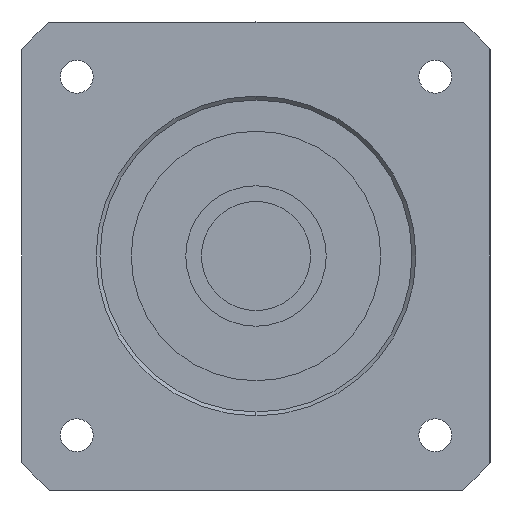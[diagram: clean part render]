
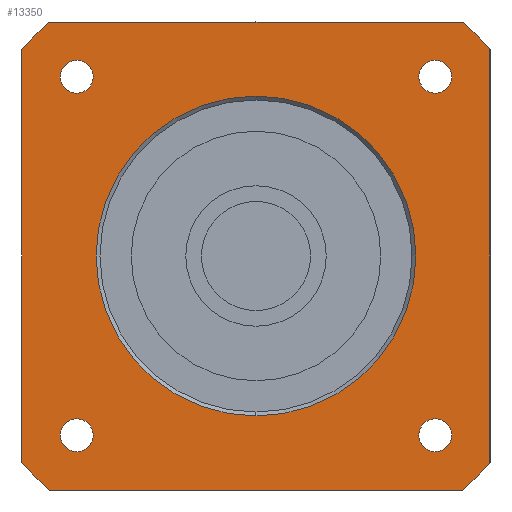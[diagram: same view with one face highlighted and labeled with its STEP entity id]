
A CAD part, left-side view. The second image highlights one B-rep face of the part: STEP entity #13350.
In plain terms, the highlighted planar face has unit normal (-1, 0, 0) as drawn and (0, 0, -1) by its records, which use the part's own axes.
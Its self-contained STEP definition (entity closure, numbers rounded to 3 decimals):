
#8680=CARTESIAN_POINT('',(22.981,-20.881,-35.));
#8690=VERTEX_POINT('',#8680);
#8870=CARTESIAN_POINT('',(22.981,-25.081,-35.));
#8880=VERTEX_POINT('',#8870);
#8910=CARTESIAN_POINT('',(22.981,-22.981,-35.));
#8920=DIRECTION('',(0.,0.,-1.));
#8930=DIRECTION('',(1.,0.,0.));
#8940=AXIS2_PLACEMENT_3D('',#8910,#8920,#8930);
#8950=CIRCLE('',#8940,2.1);
#8960=CARTESIAN_POINT('',(25.081,-22.981,-35.));
#8970=VERTEX_POINT('',#8960);
#8980=EDGE_CURVE('',#8970,#8880,#8950,.T.);
#9000=EDGE_CURVE('',#8690,#8970,#8950,.T.);
#9140=CARTESIAN_POINT('',(22.981,25.081,-35.));
#9150=VERTEX_POINT('',#9140);
#9330=CARTESIAN_POINT('',(22.981,20.881,-35.));
#9340=VERTEX_POINT('',#9330);
#9370=CARTESIAN_POINT('',(22.981,22.981,-35.));
#9380=DIRECTION('',(0.,0.,-1.));
#9390=DIRECTION('',(1.,0.,0.));
#9400=AXIS2_PLACEMENT_3D('',#9370,#9380,#9390);
#9410=CIRCLE('',#9400,2.1);
#9420=CARTESIAN_POINT('',(25.081,22.981,-35.));
#9430=VERTEX_POINT('',#9420);
#9440=EDGE_CURVE('',#9430,#9340,#9410,.T.);
#9460=EDGE_CURVE('',#9150,#9430,#9410,.T.);
#11820=CARTESIAN_POINT('',(0.,-20.5,-35.));
#11830=VERTEX_POINT('',#11820);
#11860=CARTESIAN_POINT('',(0.,0.,-35.));
#11870=DIRECTION('',(0.,0.,1.));
#11880=DIRECTION('',(0.,1.,0.));
#11890=AXIS2_PLACEMENT_3D('',#11860,#11870,#11880);
#11900=CIRCLE('',#11890,20.5);
#11910=CARTESIAN_POINT('',(0.,20.5,-35.));
#11920=VERTEX_POINT('',#11910);
#11930=EDGE_CURVE('',#11830,#11920,#11900,.T.);
#12050=CARTESIAN_POINT('',(30.,30.,-35.));
#12060=DIRECTION('',(0.,0.,1.));
#12070=DIRECTION('',(0.,1.,0.));
#12080=AXIS2_PLACEMENT_3D('',#12050,#12060,#12070);
#12090=PLANE('',#12080);
#12100=CARTESIAN_POINT('',(-22.981,-22.981,-35.));
#12110=DIRECTION('',(0.,0.,-1.));
#12120=DIRECTION('',(1.,0.,0.));
#12130=AXIS2_PLACEMENT_3D('',#12100,#12110,#12120);
#12140=CIRCLE('',#12130,2.1);
#12150=CARTESIAN_POINT('',(-20.881,-22.981,-35.));
#12160=VERTEX_POINT('',#12150);
#12170=CARTESIAN_POINT('',(-22.981,-25.081,-35.));
#12180=VERTEX_POINT('',#12170);
#12190=EDGE_CURVE('',#12160,#12180,#12140,.T.);
#12200=ORIENTED_EDGE('',*,*,#12190,.F.);
#12210=CARTESIAN_POINT('',(-22.981,-20.881,-35.));
#12220=VERTEX_POINT('',#12210);
#12230=EDGE_CURVE('',#12180,#12220,#12140,.T.);
#12240=ORIENTED_EDGE('',*,*,#12230,.F.);
#12250=EDGE_CURVE('',#12220,#12160,#12140,.T.);
#12260=ORIENTED_EDGE('',*,*,#12250,.F.);
#12270=EDGE_LOOP('',(#12260,#12240,#12200));
#12280=FACE_BOUND('',#12270,.T.);
#12290=CARTESIAN_POINT('',(-22.981,22.981,-35.));
#12300=DIRECTION('',(0.,0.,-1.));
#12310=DIRECTION('',(1.,0.,0.));
#12320=AXIS2_PLACEMENT_3D('',#12290,#12300,#12310);
#12330=CIRCLE('',#12320,2.1);
#12340=CARTESIAN_POINT('',(-20.881,22.981,-35.));
#12350=VERTEX_POINT('',#12340);
#12360=CARTESIAN_POINT('',(-22.981,20.881,-35.));
#12370=VERTEX_POINT('',#12360);
#12380=EDGE_CURVE('',#12350,#12370,#12330,.T.);
#12390=ORIENTED_EDGE('',*,*,#12380,.F.);
#12400=CARTESIAN_POINT('',(-22.981,25.081,-35.));
#12410=VERTEX_POINT('',#12400);
#12420=EDGE_CURVE('',#12370,#12410,#12330,.T.);
#12430=ORIENTED_EDGE('',*,*,#12420,.F.);
#12440=EDGE_CURVE('',#12410,#12350,#12330,.T.);
#12450=ORIENTED_EDGE('',*,*,#12440,.F.);
#12460=EDGE_LOOP('',(#12450,#12430,#12390));
#12470=FACE_BOUND('',#12460,.T.);
#12480=ORIENTED_EDGE('',*,*,#9440,.F.);
#12490=EDGE_CURVE('',#9340,#9150,#9410,.T.);
#12500=ORIENTED_EDGE('',*,*,#12490,.F.);
#12510=ORIENTED_EDGE('',*,*,#9460,.F.);
#12520=EDGE_LOOP('',(#12510,#12500,#12480));
#12530=FACE_BOUND('',#12520,.T.);
#12540=ORIENTED_EDGE('',*,*,#8980,.F.);
#12550=EDGE_CURVE('',#8880,#8690,#8950,.T.);
#12560=ORIENTED_EDGE('',*,*,#12550,.F.);
#12570=ORIENTED_EDGE('',*,*,#9000,.F.);
#12580=EDGE_LOOP('',(#12570,#12560,#12540));
#12590=FACE_BOUND('',#12580,.T.);
#12600=EDGE_CURVE('',#11920,#11830,#11900,.T.);
#12610=ORIENTED_EDGE('',*,*,#12600,.T.);
#12620=ORIENTED_EDGE('',*,*,#11930,.T.);
#12630=EDGE_LOOP('',(#12620,#12610));
#12640=FACE_BOUND('',#12630,.T.);
#12650=CARTESIAN_POINT('',(-30.,30.,-35.));
#12660=DIRECTION('',(0.,-1.,0.));
#12670=VECTOR('',#12660,1000.);
#12680=LINE('',#12650,#12670);
#12690=CARTESIAN_POINT('',(-30.,26.458,-35.));
#12700=VERTEX_POINT('',#12690);
#12710=CARTESIAN_POINT('',(-30.,-26.458,-35.));
#12720=VERTEX_POINT('',#12710);
#12730=EDGE_CURVE('',#12700,#12720,#12680,.T.);
#12740=ORIENTED_EDGE('',*,*,#12730,.F.);
#12750=CARTESIAN_POINT('',(0.,0.,
-35.));
#12760=DIRECTION('',(0.,0.,-1.));
#12770=DIRECTION('',(-1.,0.,0.));
#12780=AXIS2_PLACEMENT_3D('',#12750,#12760,#12770);
#12790=CIRCLE('',#12780,40.);
#12800=CARTESIAN_POINT('',(-26.458,-30.,-35.));
#12810=VERTEX_POINT('',#12800);
#12820=EDGE_CURVE('',#12810,#12720,#12790,.T.);
#12830=ORIENTED_EDGE('',*,*,#12820,.T.);
#12840=CARTESIAN_POINT('',(-30.,-30.,-35.));
#12850=DIRECTION('',(1.,0.,0.));
#12860=VECTOR('',#12850,1000.);
#12870=LINE('',#12840,#12860);
#12880=CARTESIAN_POINT('',(26.458,-30.,-35.));
#12890=VERTEX_POINT('',#12880);
#12900=EDGE_CURVE('',#12810,#12890,#12870,.T.);
#12910=ORIENTED_EDGE('',*,*,#12900,.F.);
#12920=CARTESIAN_POINT('',(0.,0.,
-35.));
#12930=DIRECTION('',(0.,0.,-1.));
#12940=DIRECTION('',(-1.,0.,0.));
#12950=AXIS2_PLACEMENT_3D('',#12920,#12930,#12940);
#12960=CIRCLE('',#12950,40.);
#12970=CARTESIAN_POINT('',(30.,-26.458,-35.));
#12980=VERTEX_POINT('',#12970);
#12990=EDGE_CURVE('',#12980,#12890,#12960,.T.);
#13000=ORIENTED_EDGE('',*,*,#12990,.T.);
#13010=CARTESIAN_POINT('',(30.,-30.,-35.));
#13020=DIRECTION('',(0.,1.,0.));
#13030=VECTOR('',#13020,1000.);
#13040=LINE('',#13010,#13030);
#13050=CARTESIAN_POINT('',(30.,26.458,-35.));
#13060=VERTEX_POINT('',#13050);
#13070=EDGE_CURVE('',#12980,#13060,#13040,.T.);
#13080=ORIENTED_EDGE('',*,*,#13070,.F.);
#13090=CARTESIAN_POINT('',(0.,0.,
-35.));
#13100=DIRECTION('',(0.,0.,-1.));
#13110=DIRECTION('',(-1.,0.,0.));
#13120=AXIS2_PLACEMENT_3D('',#13090,#13100,#13110);
#13130=CIRCLE('',#13120,40.);
#13140=CARTESIAN_POINT('',(26.458,30.,-35.));
#13150=VERTEX_POINT('',#13140);
#13160=EDGE_CURVE('',#13150,#13060,#13130,.T.);
#13170=ORIENTED_EDGE('',*,*,#13160,.T.);
#13180=CARTESIAN_POINT('',(30.,30.,-35.));
#13190=DIRECTION('',(-1.,0.,0.));
#13200=VECTOR('',#13190,1000.);
#13210=LINE('',#13180,#13200);
#13220=CARTESIAN_POINT('',(-26.458,30.,-35.));
#13230=VERTEX_POINT('',#13220);
#13240=EDGE_CURVE('',#13150,#13230,#13210,.T.);
#13250=ORIENTED_EDGE('',*,*,#13240,.F.);
#13260=CARTESIAN_POINT('',(0.,0.,
-35.));
#13270=DIRECTION('',(0.,0.,-1.));
#13280=DIRECTION('',(-1.,0.,0.));
#13290=AXIS2_PLACEMENT_3D('',#13260,#13270,#13280);
#13300=CIRCLE('',#13290,40.);
#13310=EDGE_CURVE('',#12700,#13230,#13300,.T.);
#13320=ORIENTED_EDGE('',*,*,#13310,.T.);
#13330=EDGE_LOOP('',(#13320,#13250,#13170,#13080,#13000,#12910,#12830,
#12740));
#13340=FACE_OUTER_BOUND('',#13330,.T.);
#13350=ADVANCED_FACE('',(#12280,#12470,#12530,#12590,#12640,#13340),
#12090,.F.);
